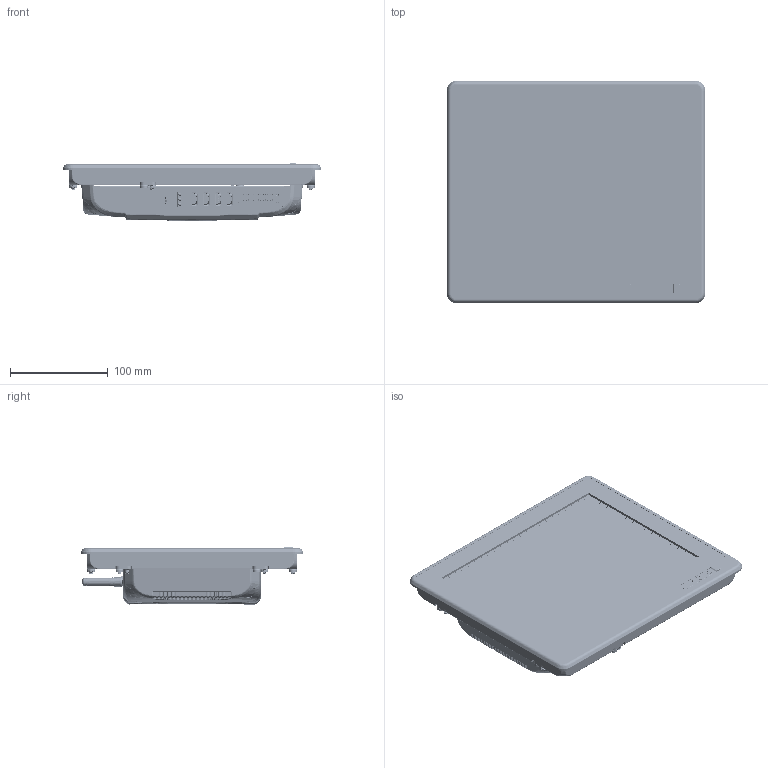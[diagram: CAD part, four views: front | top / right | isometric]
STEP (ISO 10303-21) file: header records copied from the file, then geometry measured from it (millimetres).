
FILE_DESCRIPTION (( 'STEP AP214' ), '1' );
FILE_NAME ('104.STEP', '2024-05-16T03:45:45', ( '' ), ( '' ), 'SwSTEP 2.0', 'SolidWorks 2018', '' );
FILE_SCHEMA (( 'AUTOMOTIVE_DESIGN' ));
Length unit declared in the file: millimetre
Products named in the file (1): 104
Bounding box: 264 x 227.5 x 58.5 mm (x, y, z)
Surface area: 469531.7 mm2 (no closed solid volume)
Topology: 0 solids, 823 shells, 13387 faces, 37388 edges, 24883 vertices
Faces by surface type: plane 7351, cylinder 3453, bspline 1625, torus 580, sphere 241, cone 137
Full cylindrical faces by diameter (mm): 0.3 x3, 0.34 x2, 0.5 x18, 0.7 x18, 0.8 x18, 1 x6, 1.2 x1, 1.4 x4, 1.5 x4, 2.2 x2, 2.3 x2, 2.5 x1, 2.6 x4, 3 x1, 3.2 x8, 3.5 x1, 4 x1, 4.2 x12, 4.5 x4, 4.9 x2, 5.9 x1, 6 x2, 7.306 x4, 7.6 x1, 8.1 x1, 8.429 x4
Entity records: 675196 total; most frequent: CARTESIAN_POINT 210588, ORIENTED_EDGE 69300, DIRECTION 56045, EDGE_CURVE 36678, VERTEX_POINT 24759, VECTOR 20199, LINE 20199, AXIS2_PLACEMENT_3D 17923
